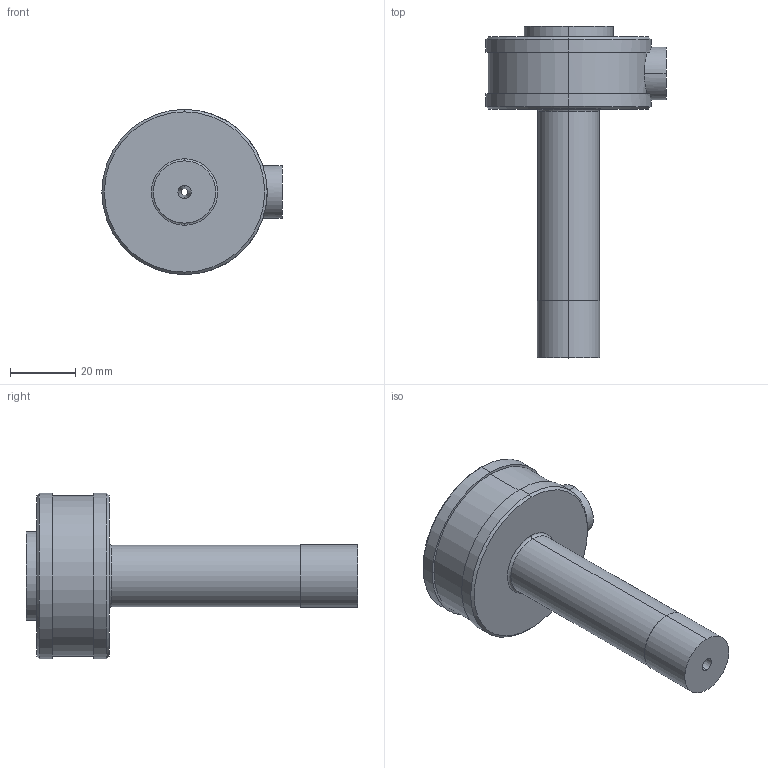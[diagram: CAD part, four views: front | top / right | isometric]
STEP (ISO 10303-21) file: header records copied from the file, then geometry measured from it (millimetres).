
FILE_DESCRIPTION (( 'STEP AP203' ), '1' );
FILE_NAME ('SB030020.STEP', '2009-05-05T17:41:28', ( 'Frank J. Eigler' ), ( 'DME' ), 'SwSTEP 2.0', 'SolidWorks 2009', '' );
FILE_SCHEMA (( 'CONFIG_CONTROL_DESIGN' ));
Length unit declared in the file: inch
Products named in the file (1): SB030020
Bounding box: 55.12 x 101.5 x 50.55 mm (x, y, z)
Volume: 65107.7 mm3; surface area: 13979.7 mm2
Topology: 1 solids, 1 shells, 37 faces, 92 edges, 58 vertices
Faces by surface type: cylinder 17, plane 8, cone 6, sphere 4, torus 2
Entity records: 1277 total; most frequent: CARTESIAN_POINT 278, DIRECTION 218, ORIENTED_EDGE 180, AXIS2_PLACEMENT_3D 96, EDGE_CURVE 90, VERTEX_POINT 58, CIRCLE 58, EDGE_LOOP 42
